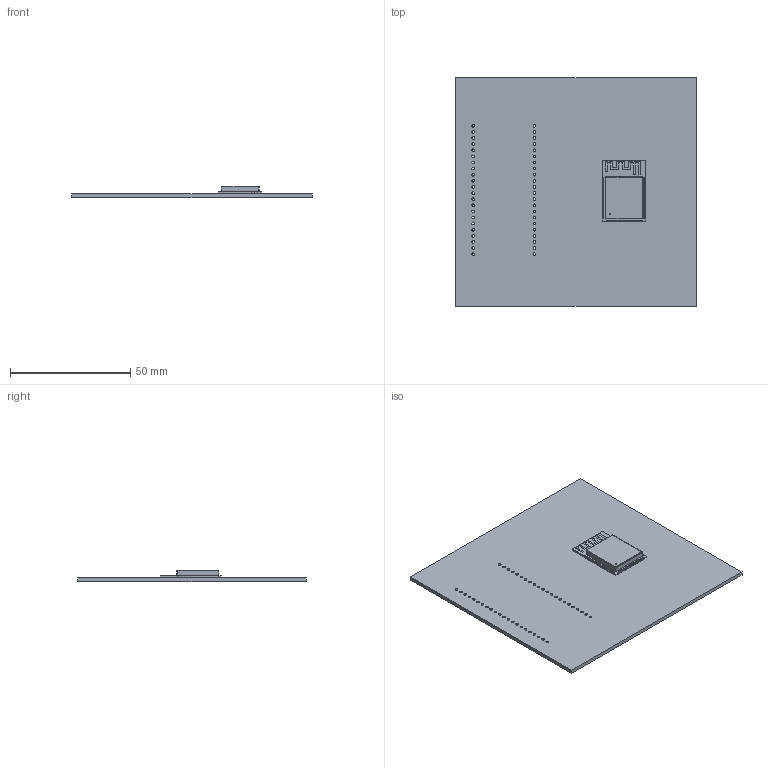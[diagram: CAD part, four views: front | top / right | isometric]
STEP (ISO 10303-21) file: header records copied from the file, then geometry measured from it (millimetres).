
FILE_DESCRIPTION(('KiCad electronic assembly'),'2;1');
FILE_NAME('Library_Loading_Test.step','2026-10-29T14:22:42',('Pcbnew'),( 'Kicad'),'Open CASCADE STEP processor 7.6','KiCad to STEP converter' ,'Unknown');
FILE_SCHEMA(('AUTOMOTIVE_DESIGN { 1 0 10303 214 1 1 1 1 }'));
Length unit declared in the file: millimetre
Products named in the file (4): Library_Loading_Test 1; ESP32-S3-WROOM-1; ESP32-S3-WROOM-1_20211021; Library_Loading_Test_PCB
Assembly tree (3 placements, depth 3):
  Library_Loading_Test 1
    ESP32-S3-WROOM-1
      ESP32-S3-WROOM-1_20211021
    Library_Loading_Test_PCB
Bounding box: 100 x 95 x 4.75 mm (x, y, z)
Volume: 15627.8 mm3; surface area: 22202.3 mm2
Topology: 235 solids, 236 shells, 3601 faces, 8850 edges, 5638 vertices
Faces by surface type: plane 2588, cylinder 809, sphere 144, bspline 56, torus 4
Full cylindrical faces by diameter (mm): 1.1 x44
Entity records: 109077 total; most frequent: CARTESIAN_POINT 22095, ORIENTED_EDGE 17412, DIRECTION 17304, EDGE_CURVE 8706, LINE 6970, VECTOR 6970, VERTEX_POINT 5638, AXIS2_PLACEMENT_3D 5167
